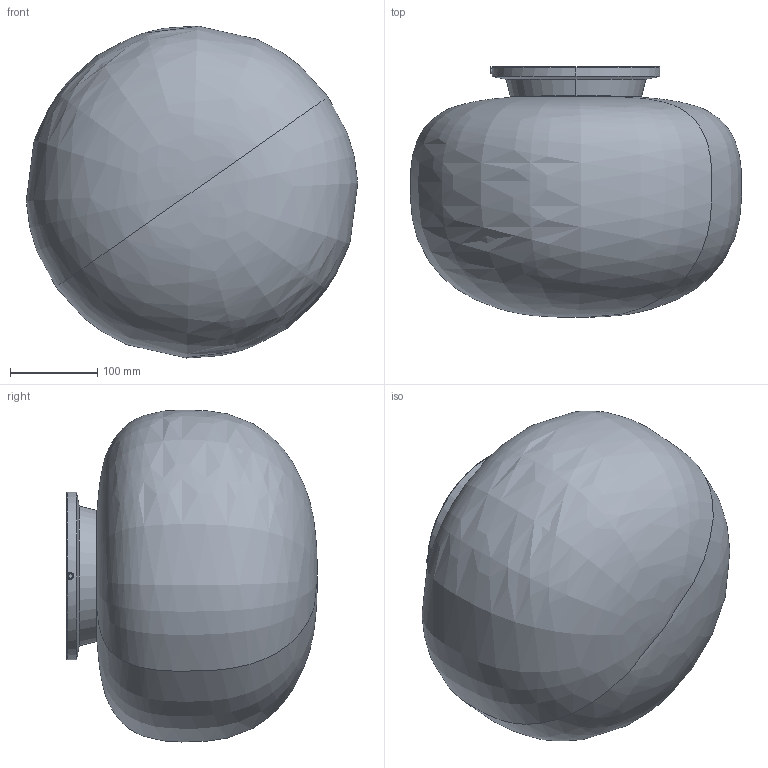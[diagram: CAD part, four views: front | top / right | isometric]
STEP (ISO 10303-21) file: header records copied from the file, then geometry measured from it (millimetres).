
FILE_DESCRIPTION (( 'STEP AP203' ), '1' );
FILE_NAME ('10 54322 FP 2023U010 Supernate Ceiling 380.STEP', '2023-11-29T07:12:43', ( '' ), ( '' ), 'SwSTEP 2.0', 'SolidWorks 2022', '' );
FILE_SCHEMA (( 'CONFIG_CONTROL_DESIGN' ));
Length unit declared in the file: millimetre
Products named in the file (13): 18 54345 Supernate ceiling fitting housing Ø380; 20 54400 Cable protector, black plastic Ø8xØ6x11; Plastic holding bracket M70x2,0 with facet, black; All nuts_380125 M10,1 H3,8; Assem6^10 54322 FP 2023U010 Supernate Ceiling 380; 30 50070 FE strain relief with 2 vulcanized fibre clamps for Ø10 tube; 18 54365 Supernate E27 socket cup Ø45x68 ; 10 54322 FP 2023U010 Supernate Ceiling 380; All locking washers_38483 Locking washer M10xØ10,5xØ14,5x1,5; All E27 and E26 sockets_16 51672 E27 socket, black, plain, TP FPL; All faceted threaded tube_19 53859 Faceted threaded tube M10x1x35; 21 54358 Supernate glass shade Ø380; Plastic top & bottom ring M70x2,0, fit E27, Black
Assembly tree (15 placements, depth 3):
  10 54322 FP 2023U010 Supernate Ceiling 380
    18 54345 Supernate ceiling fitting housing Ø380
    Assem6^10 54322 FP 2023U010 Supernate Ceiling 380
      Plastic top & bottom ring M70x2,0, fit E27, Black
      Plastic holding bracket M70x2,0 with facet, black
      21 54358 Supernate glass shade Ø380
    18 54365 Supernate E27 socket cup Ø45x68 
    All E27 and E26 sockets_16 51672 E27 socket, black, plain, TP FPL
    All faceted threaded tube_19 53859 Faceted threaded tube M10x1x35
    All locking washers_38483 Locking washer M10xØ10,5xØ14,5x1,5  x3
    30 50070 FE strain relief with 2 vulcanized fibre clamps for Ø10 tube
    All nuts_380125 M10,1 H3,8  x2
    20 54400 Cable protector, black plastic Ø8xØ6x11
Bounding box: 378.95 x 286.53 x 379.69 mm (x, y, z)
Volume: 1383883.9 mm3; surface area: 924694.4 mm2
Topology: 59 solids, 59 shells, 861 faces, 1943 edges, 1203 vertices
Faces by surface type: plane 312, cylinder 295, bspline 168, cone 49, torus 31, sphere 6
Entity records: 24564 total; most frequent: CARTESIAN_POINT 10915, ORIENTED_EDGE 2542, DIRECTION 2504, EDGE_CURVE 1271, AXIS2_PLACEMENT_3D 1029, VERTEX_POINT 799, EDGE_LOOP 614, ADVANCED_FACE 545
